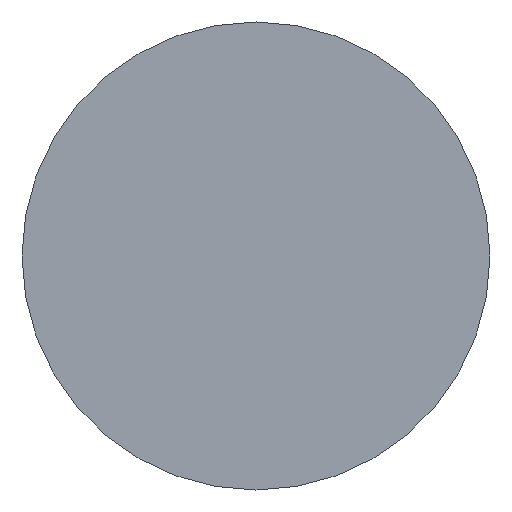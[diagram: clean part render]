
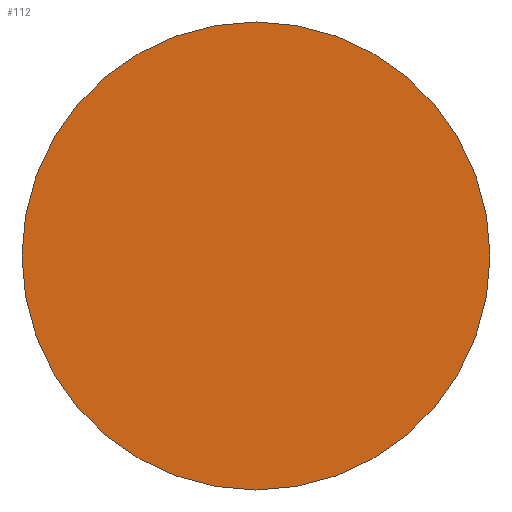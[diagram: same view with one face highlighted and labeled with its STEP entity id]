
A CAD part, left-side view. The second image highlights one B-rep face of the part: STEP entity #112.
In plain terms, the highlighted planar face has unit normal (-1, 0, 0).
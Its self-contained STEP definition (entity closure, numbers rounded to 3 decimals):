
#8 = ORIENTED_EDGE ( 'NONE', *, *, #122, .T. ) ;
#17 = CIRCLE ( 'NONE', #125, 5.5 ) ;
#18 = EDGE_LOOP ( 'NONE', ( #8, #32 ) ) ;
#24 = CIRCLE ( 'NONE', #117, 5.5 ) ;
#32 = ORIENTED_EDGE ( 'NONE', *, *, #121, .T. ) ;
#34 = FACE_OUTER_BOUND ( 'NONE', #18, .T. ) ;
#49 = CARTESIAN_POINT ( 'NONE',  ( -212., 0., -5.5 ) ) ;
#70 = DIRECTION ( 'NONE',  ( 0., 0., 1. ) ) ;
#71 = DIRECTION ( 'NONE',  ( -1., 0., 0. ) ) ;
#72 = CARTESIAN_POINT ( 'NONE',  ( -212., 0., 0. ) ) ;
#73 = DIRECTION ( 'NONE',  ( 0., 0., 1. ) ) ;
#74 = DIRECTION ( 'NONE',  ( -1., 0., 0. ) ) ;
#77 = CARTESIAN_POINT ( 'NONE',  ( -212., 0., 0. ) ) ;
#91 = DIRECTION ( 'NONE',  ( 0., 0., 1. ) ) ;
#92 = DIRECTION ( 'NONE',  ( -1., 0., 0. ) ) ;
#96 = CARTESIAN_POINT ( 'NONE',  ( -212., 0., 5.5 ) ) ;
#105 = VERTEX_POINT ( 'NONE', #49 ) ;
#106 = VERTEX_POINT ( 'NONE', #96 ) ;
#108 = CARTESIAN_POINT ( 'NONE',  ( -212., 0., 0. ) ) ;
#110 = PLANE ( 'NONE',  #126 ) ;
#112 = ADVANCED_FACE ( 'NONE', ( #34 ), #110, .T. ) ;
#117 = AXIS2_PLACEMENT_3D ( 'NONE', #72, #71, #70 ) ;
#121 = EDGE_CURVE ( 'NONE', #105, #106, #17, .T. ) ;
#122 = EDGE_CURVE ( 'NONE', #106, #105, #24, .T. ) ;
#125 = AXIS2_PLACEMENT_3D ( 'NONE', #77, #74, #73 ) ;
#126 = AXIS2_PLACEMENT_3D ( 'NONE', #108, #92, #91 ) ;
